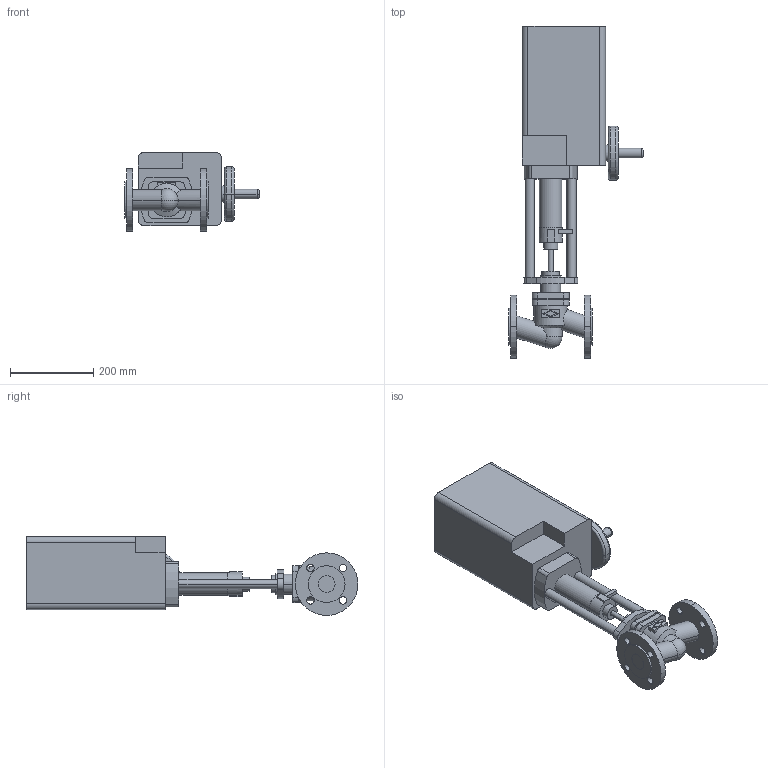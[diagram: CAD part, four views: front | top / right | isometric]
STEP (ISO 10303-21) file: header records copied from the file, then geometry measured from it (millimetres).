
FILE_DESCRIPTION(('OneSpaceDesigner STEP Export'),'2;1');
FILE_NAME('c000001188.stp','2005-01-05T12:50:06',(''),(''),'OneSpace Designer STEP processor (Jan. 2003) for AP203(Solid Model)','OneSpace Designer 12.01D 09-Jul-2004 (C) CoCreate Software GmbH','');
FILE_SCHEMA(('CONFIG_CONTROL_DESIGN'));
Length unit declared in the file: millimetre
Products named in the file (1): 1
Bounding box: 321.6 x 795.5 x 189 mm (x, y, z)
Volume: 14152287.7 mm3; surface area: 596512.1 mm2
Topology: 1 solids, 1 shells, 173 faces, 429 edges, 283 vertices
Faces by surface type: cylinder 84, plane 79, torus 6, cone 2, sphere 2
Entity records: 5055 total; most frequent: CARTESIAN_POINT 1057, ORIENTED_EDGE 854, DIRECTION 750, EDGE_CURVE 427, VERTEX_POINT 283, AXIS2_PLACEMENT_3D 265, VECTOR 220, LINE 220
